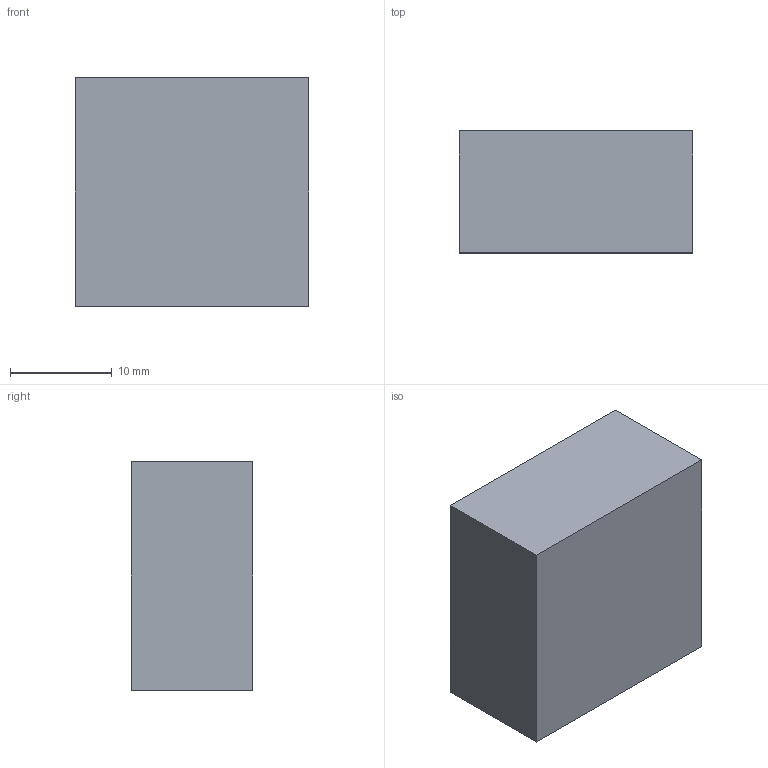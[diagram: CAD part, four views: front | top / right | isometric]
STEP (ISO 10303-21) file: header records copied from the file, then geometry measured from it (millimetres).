
FILE_DESCRIPTION(('Open CASCADE Model'),'2;1');
FILE_NAME('Open CASCADE Shape Model','2026-10-25T05:18:02',('Author'),( 'Open CASCADE'),'Open CASCADE STEP processor 7.9','Open CASCADE 7.9' ,'Unknown');
FILE_SCHEMA(('AUTOMOTIVE_DESIGN { 1 0 10303 214 1 1 1 1 }'));
Length unit declared in the file: millimetre
Products named in the file (1): Open CASCADE STEP translator 7.9 100
Bounding box: 23 x 12 x 22.5 mm (x, y, z)
Volume: 6210 mm3; surface area: 2127 mm2
Topology: 1 solids, 1 shells, 6 faces, 12 edges, 8 vertices
Faces by surface type: plane 6
Entity records: 322 total; most frequent: CARTESIAN_POINT 51, DIRECTION 50, LINE 36, VECTOR 36, ORIENTED_EDGE 24, PCURVE 24, DEFINITIONAL_REPRESENTATION 24, EDGE_CURVE 12
